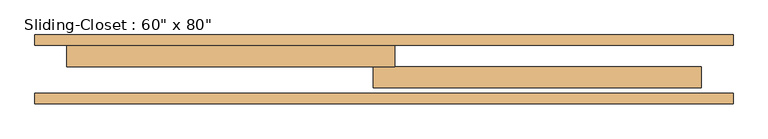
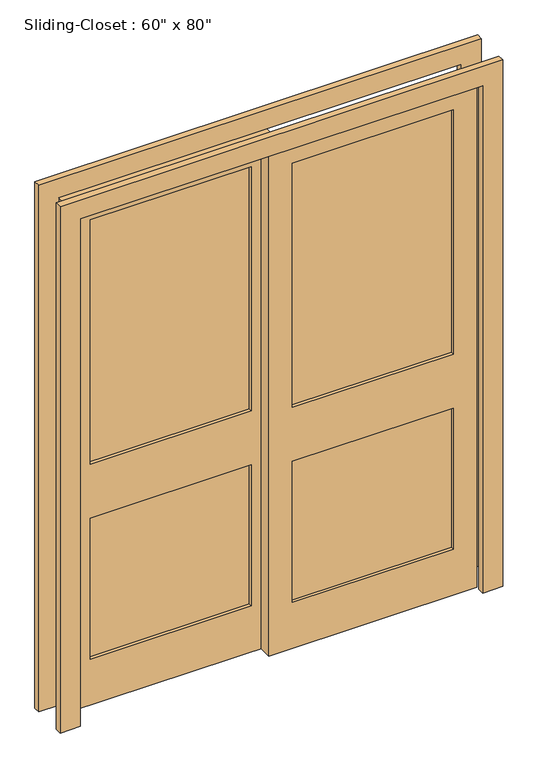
"""IFC4 building model written with IfcOpenShell, lengths in millimetres: door geometry."""

from ifc_helpers import new_model, si_unit, frame, origin, place, context, project, spatial, polyline, outline, extrude, source, transform, mapped, element, save


def door_2e7ec8be(model_context):
    return source(origin(), model_context, "Body", "SweptSolid", [
        extrude(outline(polyline([(-63.5, 146.05), (-673.1, 146.05), (-673.1, 171.45), (-63.5, 171.45), (-63.5, 146.05)])), frame((0.0, 0.0, 965.2), z_axis=(0.0, 0.0, 1.0), x_axis=(1.0, 0.0, 0.0)), (0.0, 0.0, 1.0), 977.9),
        extrude(outline(polyline([(-63.5, 146.05), (-673.1, 146.05), (-673.1, 171.45), (-63.5, 171.45), (-63.5, 146.05)])), frame((0.0, 0.0, 184.15), z_axis=(0.0, 0.0, 1.0), x_axis=(1.0, 0.0, 0.0)), (0.0, 0.0, 1.0), 565.15),
        extrude(outline(polyline([(63.5, 120.65), (673.1, 120.65), (673.1, 95.25), (63.5, 95.25), (63.5, 120.65)])), frame((0.0, 0.0, 965.2), z_axis=(0.0, 0.0, 1.0), x_axis=(1.0, 0.0, 0.0)), (0.0, 0.0, 1.0), 977.9),
        extrude(outline(polyline([(63.5, 120.65), (673.1, 120.65), (673.1, 95.25), (63.5, 95.25), (63.5, 120.65)])), frame((0.0, 0.0, 184.15), z_axis=(0.0, 0.0, 1.0), x_axis=(1.0, 0.0, 0.0)), (0.0, 0.0, 1.0), 565.15),
        extrude(outline(polyline([(2032.0, 25.4), (2032.0, -762.0), (0.0, -762.0), (0.0, 25.4), (2032.0, 25.4)]), holes=[polyline([(184.15, -673.1), (749.3, -673.1), (749.3, -63.5), (184.15, -63.5), (184.15, -673.1)]), polyline([(965.2, -673.1), (1943.1, -673.1), (1943.1, -63.5), (965.2, -63.5), (965.2, -673.1)])]), frame((0.0, 133.35, 0.0), z_axis=(0.0, 1.0, 0.0), x_axis=(0.0, 0.0, 1.0)), (0.0, 0.0, 1.0), 50.8),
        extrude(outline(polyline([(0.0, -838.2), (0.0, -762.0), (2032.0, -762.0), (2032.0, 762.0), (0.0, 762.0), (0.0, 838.2), (2108.2, 838.2), (2108.2, -838.2), (0.0, -838.2)])), frame((0.0, 44.45, 0.0), z_axis=(0.0, 1.0, 0.0), x_axis=(0.0, 0.0, 1.0)), (0.0, 0.0, 1.0), 25.4),
        extrude(outline(polyline([(0.0, 838.2), (2108.2, 838.2), (2108.2, -838.2), (0.0, -838.2), (0.0, -762.0), (2032.0, -762.0), (2032.0, 762.0), (0.0, 762.0), (0.0, 838.2)])), frame((0.0, 184.15, 0.0), z_axis=(0.0, 1.0, 0.0), x_axis=(0.0, 0.0, 1.0)), (0.0, 0.0, 1.0), 25.4),
        extrude(outline(polyline([(2032.0, -25.4), (0.0, -25.4), (0.0, 762.0), (2032.0, 762.0), (2032.0, -25.4)]), holes=[polyline([(965.2, 673.1), (965.2, 63.5), (1943.1, 63.5), (1943.1, 673.1), (965.2, 673.1)]), polyline([(184.15, 673.1), (184.15, 63.5), (749.3, 63.5), (749.3, 673.1), (184.15, 673.1)])]), frame((0.0, 82.55, 0.0), z_axis=(0.0, 1.0, 0.0), x_axis=(0.0, 0.0, 1.0)), (0.0, 0.0, 1.0), 50.8),
    ])


if __name__ == "__main__":
    model = new_model("IFC4")
    model_context = context("Model", 3, world=origin())
    ifc_project = project(units=[si_unit("LENGTHUNIT", "METRE", prefix="MILLI")], contexts=[model_context])
    site = spatial("IfcSite", under=ifc_project)
    building = spatial("IfcBuilding", under=site)
    placement = place(None, origin())
    door_shape = door_2e7ec8be(model_context)
    element("IfcDoor", 1, ObjectType="Sliding-Closet : 60\" x 80\"", at=placement, inside=building, context=model_context, shape_type="MappedRepresentation", body=[
        mapped(door_shape, transform((0.0, 0.0, 0.0), x_axis=(1.0, 0.0, 0.0), y_axis=(0.0, 1.0, 0.0), z_axis=(0.0, 0.0, 1.0))),
    ])
    save(model, "model.ifc")
